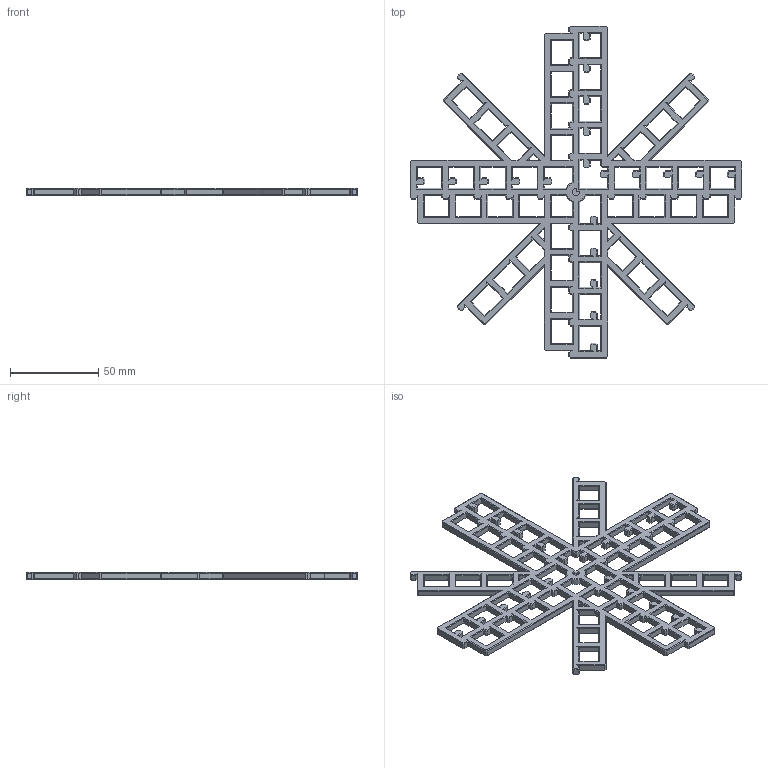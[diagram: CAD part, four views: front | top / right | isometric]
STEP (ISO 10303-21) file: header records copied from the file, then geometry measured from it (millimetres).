
FILE_DESCRIPTION(('Open CASCADE Model'),'2;1');
FILE_NAME('Open CASCADE Shape Model','2024-03-23T13:10:24',('Author'),( 'Open CASCADE'),'Open CASCADE STEP processor 7.7','Open CASCADE 7.7' ,'Unknown');
FILE_SCHEMA(('AUTOMOTIVE_DESIGN { 1 0 10303 214 1 1 1 1 }'));
Products named in the file (1): Open CASCADE STEP translator 7.7 148
Bounding box: 188 x 188 x 4 mm (x, y, z)
Volume: 34669.1 mm3; surface area: 31580.1 mm2
Topology: 1 solids, 1 shells, 1512 faces, 3523 edges, 2014 vertices
Faces by surface type: plane 1502, cone 6, cylinder 4
Entity records: 86538 total; most frequent: CARTESIAN_POINT 14525, DIRECTION 13257, LINE 10172, VECTOR 10172, ORIENTED_EDGE 7046, PCURVE 7046, DEFINITIONAL_REPRESENTATION 7046, EDGE_CURVE 3523
